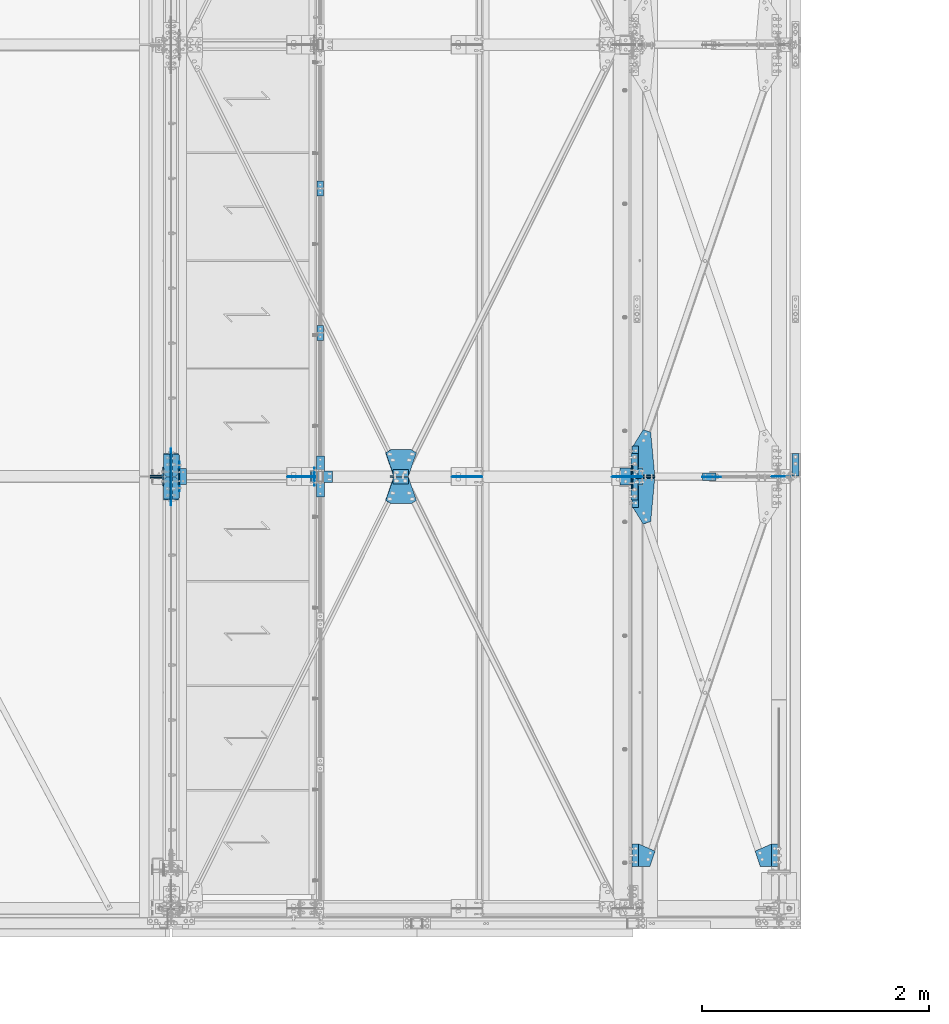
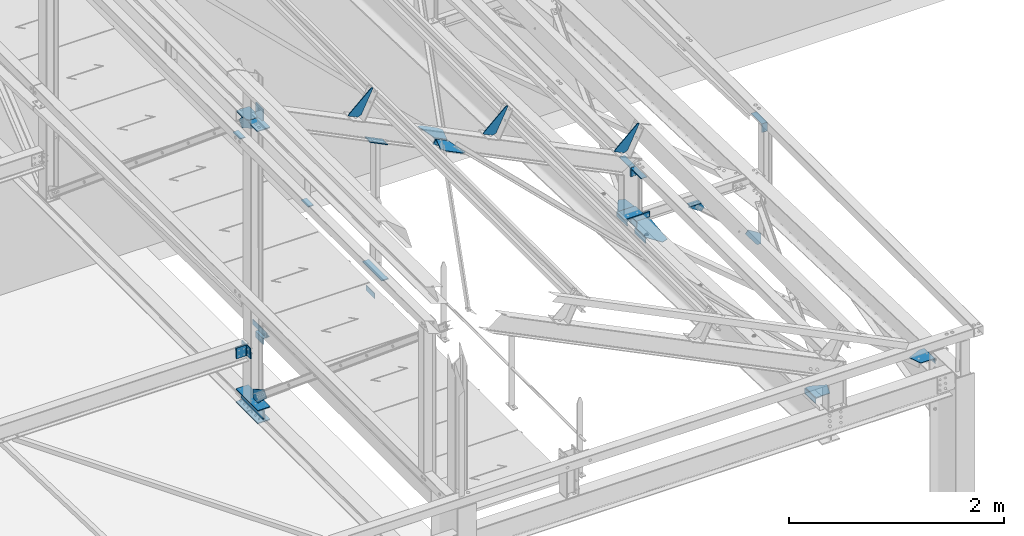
# One storey, part 107 of 362: 34 beams, 7 members, 32 elements without a shape of their own.
"""IFC2X3 building model written with IfcOpenShell, lengths in millimetres."""

from ifc_helpers import new_model, si_unit, frame, frame_2d, origin_with_axes, origin_2d_with_axis, place, context, subcontext, project, spatial, polyline, circle_curve, parameter, trimmed, segment, composite_curve, rectangle, l_section, outline, extrude, material, type_object, element, aggregate, save


model = new_model("IFC2X3")

# Units and contexts
model_context = context("Model", 3, precision=1e-05, world=origin_with_axes())
body_context = subcontext(model_context, "Body", "Model", "MODEL_VIEW")
ifc_project = project(units=[si_unit("LENGTHUNIT", "METRE", prefix="MILLI"), si_unit("AREAUNIT", "SQUARE_METRE"), si_unit("VOLUMEUNIT", "CUBIC_METRE"), si_unit("MASSUNIT", "GRAM", prefix="KILO"), si_unit("TIMEUNIT", "SECOND"), si_unit("PLANEANGLEUNIT", "RADIAN"), si_unit("SOLIDANGLEUNIT", "STERADIAN"), si_unit("THERMODYNAMICTEMPERATUREUNIT", "DEGREE_CELSIUS"), si_unit("LUMINOUSINTENSITYUNIT", "LUMEN")], contexts=[model_context])

# Site, building, storey
site_placement = place(None, origin_with_axes())
site = spatial("IfcSite", under=ifc_project, at=site_placement, Name="Undefined", CompositionType="ELEMENT")
building_placement = place(site_placement, origin_with_axes())
building = spatial("IfcBuilding", under=site, at=building_placement, Name="Undefined", CompositionType="ELEMENT")
storey_placement = place(building_placement, origin_with_axes())
storey = spatial("IfcBuildingStorey", under=building, at=storey_placement, Name="Undefined", CompositionType="ELEMENT", Elevation=0.0)

# Assembly, beams
assembly_1_placement = place(storey_placement, origin_with_axes())
assembly_1 = element("IfcElementAssembly", 1, at=assembly_1_placement, inside=storey, Name="MAIN COURANTE", AssemblyPlace="NOTDEFINED", PredefinedType="NOTDEFINED")
ifc_material = material(Name="Undefined/S235-E24")
beam_type_1 = type_object("IfcBeamType", Name="PL10*60", PredefinedType="NOTDEFINED")
beam_1_placement = place(assembly_1_placement, frame((35593.9917151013, 5130.00343196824, 8245.00000549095), z_axis=(-1.0, 0.0, 0.0), x_axis=(0.0, -1.0, 0.0)))
beam_1 = element("IfcBeam", 2, at=beam_1_placement, type_object=beam_type_1, material=ifc_material, Name="PLATINE", ObjectType="PL10*60", context=body_context, shape_type="SweptSolid", body=[
    extrude(rectangle(XDim=10.0, YDim=60.0, at=origin_2d_with_axis()), frame((130.0, 0.0, 0.0), z_axis=(-1.0, 0.0, 0.0), x_axis=(0.0, -1.0, 0.0)), (0.0, 0.0, 1.0), 130.0),
])
beam_2_placement = place(assembly_1_placement, frame((35593.9917161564, 6400.00343196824, 8245.00000462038), z_axis=(-1.0, 0.0, 0.0), x_axis=(0.0, -1.0, 0.0)))
beam_2 = element("IfcBeam", 3, at=beam_2_placement, type_object=beam_type_1, material=ifc_material, Name="PLATINE", ObjectType="PL10*60", context=body_context, shape_type="SweptSolid", body=[
    extrude(rectangle(XDim=10.0, YDim=60.0, at=origin_2d_with_axis()), frame((130.0, 0.0, 0.0), z_axis=(-1.0, 0.0, 0.0), x_axis=(0.0, -1.0, 0.0)), (0.0, 0.0, 1.0), 130.0),
])
aggregate(assembly_1, [beam_1, beam_2])

# Assembly, beam
assembly_2_placement = place(storey_placement, origin_with_axes())
assembly_2 = element("IfcElementAssembly", 4, at=assembly_2_placement, inside=storey, AssemblyPlace="NOTDEFINED", PredefinedType="NOTDEFINED")
beam_type_2 = type_object("IfcBeamType", Name="L60*6", PredefinedType="NOTDEFINED")
beam_3_placement = place(assembly_2_placement, frame((39594.9999999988, 366.801988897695, 7882.39566743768), z_axis=(-1.05403257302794e-09, -0.0314112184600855, -0.999506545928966), x_axis=(3.14103090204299e-11, 0.999506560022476, -0.0314107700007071)))
beam_3 = element("IfcBeam", 5, at=beam_3_placement, type_object=beam_type_2, material=ifc_material, Name="ATTACHE", ObjectType="L60*6", context=body_context, shape_type="SweptSolid", body=[
    extrude(l_section(Depth=60.0, Width=60.0, Thickness=6.0, FilletRadius=8.0, EdgeRadius=4.0, at=origin_2d_with_axis()), frame((200.0, 0.0, 0.0), z_axis=(-1.0, 0.0, 0.0), x_axis=(0.0, -1.0, 0.0)), (0.0, 0.0, 1.0), 200.0),
])
aggregate(assembly_2, [beam_3])

assembly_3_placement = place(storey_placement, origin_with_axes())
assembly_3 = element("IfcElementAssembly", 6, at=assembly_3_placement, inside=storey, AssemblyPlace="NOTDEFINED", PredefinedType="NOTDEFINED")
beam_4_placement = place(assembly_3_placement, frame((38365.0000000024, 566.703299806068, 7876.11347890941), z_axis=(-1.05403257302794e-09, -0.0314112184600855, -0.999506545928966), x_axis=(0.0, -0.999506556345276, 0.031410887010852)))
beam_4 = element("IfcBeam", 7, at=beam_4_placement, type_object=beam_type_2, material=ifc_material, Name="ATTACHE", ObjectType="L60*6", context=body_context, shape_type="SweptSolid", body=[
    extrude(l_section(Depth=60.0, Width=60.0, Thickness=6.0, FilletRadius=8.0, EdgeRadius=4.0, at=origin_2d_with_axis()), frame((200.0, 0.0, 0.0), z_axis=(-1.0, 0.0, 0.0), x_axis=(0.0, -1.0, 0.0)), (0.0, 0.0, 1.0), 200.0),
])
aggregate(assembly_3, [beam_4])

assembly_4_placement = place(storey_placement, origin_with_axes())
assembly_4 = element("IfcElementAssembly", 8, at=assembly_4_placement, inside=storey, AssemblyPlace="NOTDEFINED", PredefinedType="NOTDEFINED")
beam_5_placement = place(assembly_4_placement, frame((38365.0000000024, 3727.01910135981, 7776.79665503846), z_axis=(-1.05403257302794e-09, -0.0314112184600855, -0.999506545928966), x_axis=(0.0, -0.999506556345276, 0.031410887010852)))
beam_5 = element("IfcBeam", 9, at=beam_5_placement, type_object=beam_type_2, material=ifc_material, Name="ATTACHE", ObjectType="L60*6", context=body_context, shape_type="SweptSolid", body=[
    extrude(l_section(Depth=60.0, Width=60.0, Thickness=6.0, FilletRadius=8.0, EdgeRadius=4.0, at=origin_2d_with_axis()), frame((200.0, 0.0, 0.0), z_axis=(-1.0, 0.0, 0.0), x_axis=(0.0, -1.0, 0.0)), (0.0, 0.0, 1.0), 200.0),
])
aggregate(assembly_4, [beam_5])

assembly_5_placement = place(storey_placement, origin_with_axes())
assembly_5 = element("IfcElementAssembly", 10, at=assembly_5_placement, inside=storey, AssemblyPlace="NOTDEFINED", PredefinedType="NOTDEFINED")
beam_6_placement = place(assembly_5_placement, frame((38365.0000000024, 4066.85133304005, 7766.11703371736), z_axis=(-1.05403257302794e-09, -0.0314112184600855, -0.999506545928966), x_axis=(0.0, -0.999506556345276, 0.031410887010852)))
beam_6 = element("IfcBeam", 11, at=beam_6_placement, type_object=beam_type_2, material=ifc_material, Name="ATTACHE", ObjectType="L60*6", context=body_context, shape_type="SweptSolid", body=[
    extrude(l_section(Depth=60.0, Width=60.0, Thickness=6.0, FilletRadius=8.0, EdgeRadius=4.0, at=origin_2d_with_axis()), frame((200.0, 0.0, 0.0), z_axis=(-1.0, 0.0, 0.0), x_axis=(0.0, -1.0, 0.0)), (0.0, 0.0, 1.0), 200.0),
])
aggregate(assembly_5, [beam_6])

assembly_6_placement = place(storey_placement, origin_with_axes())
assembly_6 = element("IfcElementAssembly", 12, at=assembly_6_placement, inside=storey, Name="TRAVERSE SHED", AssemblyPlace="NOTDEFINED", PredefinedType="NOTDEFINED")
beam_type_3 = type_object("IfcBeamType", Name="PL10*200", PredefinedType="NOTDEFINED")
beam_7_placement = place(assembly_6_placement, frame((38330.0, 3874.80562184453, 7933.23320419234), z_axis=(-1.0, 0.0, 0.0), x_axis=(0.0, -0.999506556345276, 0.031410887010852)))
beam_7 = element("IfcBeam", 13, at=beam_7_placement, type_object=beam_type_3, material=ifc_material, Name="PLATINE", ObjectType="PL10*200", context=body_context, shape_type="SweptSolid", body=[
    extrude(rectangle(XDim=10.0, YDim=200.0, at=origin_2d_with_axis()), frame((150.0, 0.0, 0.0), z_axis=(-1.0, 0.0, 0.0), x_axis=(0.0, -1.0, 0.0)), (0.0, 0.0, 1.0), 150.0),
])

assembly_7_placement = place(storey_placement, origin_with_axes())
assembly_7 = element("IfcElementAssembly", 14, at=assembly_7_placement, inside=storey, AssemblyPlace="NOTDEFINED", PredefinedType="NOTDEFINED")
beam_type_4 = type_object("IfcBeamType", Name="L70*7", PredefinedType="NOTDEFINED")
beam_8_placement = place(assembly_7_placement, frame((34381.5001146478, 3730.0, 7915.0), z_axis=(1.0, 0.0, 0.0), x_axis=(0.0, 1.0, 0.0)))
beam_8 = element("IfcBeam", 15, at=beam_8_placement, type_object=beam_type_4, material=ifc_material, Name="ATTACHE", ObjectType="L70*7", context=body_context, shape_type="SweptSolid", body=[
    extrude(l_section(Depth=70.0, Width=70.0, Thickness=7.0, FilletRadius=9.0, EdgeRadius=4.5, at=origin_2d_with_axis()), frame((140.0, 0.0, 0.0), z_axis=(-1.0, 0.0, 0.0), x_axis=(0.0, -1.0, 0.0)), (0.0, 0.0, 1.0), 140.0),
])
aggregate(assembly_7, [beam_8])

# Assembly, member
assembly_8_placement = place(storey_placement, origin_with_axes())
assembly_8 = element("IfcElementAssembly", 16, at=assembly_8_placement, inside=storey, AssemblyPlace="NOTDEFINED", PredefinedType="NOTDEFINED")
member_type_1 = type_object("IfcMemberType", Name="L60*6", PredefinedType="NOTDEFINED")
member_1_placement = place(assembly_8_placement, frame((36221.8078763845, 3767.00045409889, 9484.14531737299), z_axis=(0.0, -1.0, 0.0), x_axis=(0.897398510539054, 0.0, -0.44122093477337)))
member_1 = element("IfcMember", 17, at=member_1_placement, type_object=member_type_1, material=ifc_material, Name="ATTACHE", ObjectType="L60*6", context=body_context, shape_type="SweptSolid", body=[
    extrude(l_section(Depth=60.0, Width=60.0, Thickness=6.0, FilletRadius=8.0, EdgeRadius=4.0, at=origin_2d_with_axis()), frame((150.0, 0.0, 0.0), z_axis=(-1.0, 0.0, 0.0), x_axis=(0.0, -1.0, 0.0)), (0.0, 0.0, 1.0), 150.0),
])
aggregate(assembly_8, [member_1])

assembly_9_placement = place(storey_placement, origin_with_axes())
assembly_9 = element("IfcElementAssembly", 18, at=assembly_9_placement, inside=storey, AssemblyPlace="NOTDEFINED", PredefinedType="NOTDEFINED")
member_2_placement = place(assembly_9_placement, frame((36356.4176224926, 3833.00025093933, 9417.96211720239), z_axis=(0.0, 1.0, 0.0), x_axis=(-0.897398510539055, -1.29999898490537e-08, 0.441220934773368)))
member_2 = element("IfcMember", 19, at=member_2_placement, type_object=member_type_1, material=ifc_material, Name="ATTACHE", ObjectType="L60*6", context=body_context, shape_type="SweptSolid", body=[
    extrude(l_section(Depth=60.0, Width=60.0, Thickness=6.0, FilletRadius=8.0, EdgeRadius=4.0, at=origin_2d_with_axis()), frame((150.0, 0.0, 0.0), z_axis=(-1.0, 0.0, 0.0), x_axis=(0.0, -1.0, 0.0)), (0.0, 0.0, 1.0), 150.0),
])
aggregate(assembly_9, [member_2])

# Assembly, beam
assembly_10_placement = place(storey_placement, origin_with_axes())
assembly_10 = element("IfcElementAssembly", 20, at=assembly_10_placement, inside=storey, Name="PANNE SHED", AssemblyPlace="NOTDEFINED", PredefinedType="NOTDEFINED")
beam_type_5 = type_object("IfcBeamType", Name="TOLE8*140", PredefinedType="NOTDEFINED")
beam_9_placement = place(assembly_10_placement, frame((38167.3881652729, 3800.0, 8712.54750741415), z_axis=(0.0, -1.0, 0.0), x_axis=(-0.441220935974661, 0.0, -0.89739850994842)))
beam_9 = element("IfcBeam", 21, at=beam_9_placement, type_object=beam_type_5, material=ifc_material, Name="RAIDISSEUR", ObjectType="TOLE8*140", context=body_context, shape_type="SweptSolid", body=[
    extrude(outline(polyline([(0.0, 0.0), (19.9999999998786, -3.63797880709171e-12), (20.0000000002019, 109.999999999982), (-9.99999999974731, 139.99998998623), (-300.0000000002, 139.999893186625), (-300.000000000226, 119.999893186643), (0.0, 0.0)])), frame((0.0, 0.0, -4.0), z_axis=(0.0, 0.0, 1.0), x_axis=(1.0, 0.0, 0.0)), (0.0, 0.0, 1.0), 8.0),
])
aggregate(assembly_10, [beam_9])

assembly_11_placement = place(storey_placement, origin_with_axes())
assembly_11 = element("IfcElementAssembly", 22, at=assembly_11_placement, inside=storey, Name="PANNE SHED", AssemblyPlace="NOTDEFINED", PredefinedType="NOTDEFINED")
beam_10_placement = place(assembly_11_placement, frame((36758.937741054, 3800.0, 9405.03563331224), z_axis=(0.0, -1.0, 0.0), x_axis=(-0.441220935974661, 0.0, -0.89739850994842)))
beam_10 = element("IfcBeam", 23, at=beam_10_placement, type_object=beam_type_5, material=ifc_material, Name="RAIDISSEUR", ObjectType="TOLE8*140", context=body_context, shape_type="SweptSolid", body=[
    extrude(outline(polyline([(0.0, 0.0), (19.9999999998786, -3.63797880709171e-12), (20.0000000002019, 109.999999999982), (-9.99999999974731, 139.99998998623), (-300.0000000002, 139.999893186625), (-300.000000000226, 119.999893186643), (0.0, 0.0)])), frame((0.0, 0.0, -4.0), z_axis=(0.0, 0.0, 1.0), x_axis=(1.0, 0.0, 0.0)), (0.0, 0.0, 1.0), 8.0),
])
aggregate(assembly_11, [beam_10])

assembly_12_placement = place(storey_placement, origin_with_axes())
assembly_12 = element("IfcElementAssembly", 24, at=assembly_12_placement, inside=storey, Name="PANNE SHED", AssemblyPlace="NOTDEFINED", PredefinedType="NOTDEFINED")
beam_11_placement = place(assembly_12_placement, frame((35310.1044072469, 3800.0, 10117.3786897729), z_axis=(0.0, -1.0, 0.0), x_axis=(-0.441220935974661, 0.0, -0.89739850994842)))
beam_11 = element("IfcBeam", 25, at=beam_11_placement, type_object=beam_type_5, material=ifc_material, Name="RAIDISSEUR", ObjectType="TOLE8*140", context=body_context, shape_type="SweptSolid", body=[
    extrude(outline(polyline([(0.0, 0.0), (19.9999999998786, -3.63797880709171e-12), (20.0000000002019, 109.999999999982), (-9.99999999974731, 139.99998998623), (-300.0000000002, 139.999893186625), (-300.000000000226, 119.999893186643), (0.0, 0.0)])), frame((0.0, 0.0, -4.0), z_axis=(0.0, 0.0, 1.0), x_axis=(1.0, 0.0, 0.0)), (0.0, 0.0, 1.0), 8.0),
])
aggregate(assembly_12, [beam_11])

assembly_13_placement = place(storey_placement, origin_with_axes())
assembly_13 = element("IfcElementAssembly", 26, at=assembly_13_placement, inside=storey, AssemblyPlace="NOTDEFINED", PredefinedType="NOTDEFINED")
beam_type_6 = type_object("IfcBeamType", Name="TOLE6*197", PredefinedType="NOTDEFINED")
beam_12_placement = place(assembly_13_placement, frame((38343.50000391, 567.739859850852, 7909.09719393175), z_axis=(1.303644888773e-06, -0.0314106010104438, -0.999506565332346), x_axis=(0.99999999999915, 4.09999990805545e-08, 1.30299999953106e-06)))
beam_12 = element("IfcBeam", 27, at=beam_12_placement, type_object=beam_type_6, material=ifc_material, Name="GOUSSET", ObjectType="TOLE6*197", context=body_context, shape_type="SweptSolid", body=[
    extrude(outline(polyline([(0.0, 0.0), (51.5000038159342, -1.75987224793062e-10), (196.831817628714, 63.0573387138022), (150.006042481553, 199.99999999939), (-0.000139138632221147, 199.999999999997), (0.0, 0.0)])), frame((0.0, 0.0, -3.0), z_axis=(0.0, 0.0, 1.0), x_axis=(1.0, 0.0, 0.0)), (0.0, 0.0, 1.0), 6.0),
])
aggregate(assembly_13, [beam_12])

assembly_14_placement = place(storey_placement, origin_with_axes())
assembly_14 = element("IfcElementAssembly", 28, at=assembly_14_placement, inside=storey, AssemblyPlace="NOTDEFINED", PredefinedType="NOTDEFINED")
beam_13_placement = place(assembly_14_placement, frame((39616.49999609, 567.739859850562, 7909.09719393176), z_axis=(1.30364488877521e-06, 0.0314106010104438, 0.999506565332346), x_axis=(-0.99999999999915, 4.0999999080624e-08, 1.30299999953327e-06)))
beam_13 = element("IfcBeam", 29, at=beam_13_placement, type_object=beam_type_6, material=ifc_material, Name="GOUSSET", ObjectType="TOLE6*197", context=body_context, shape_type="SweptSolid", body=[
    extrude(outline(polyline([(0.0, 0.0), (51.5000038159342, -1.75987224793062e-10), (196.831817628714, 63.0573387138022), (150.006042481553, 199.99999999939), (-0.000139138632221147, 199.999999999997), (0.0, 0.0)])), frame((0.0, 0.0, -3.0), z_axis=(0.0, 0.0, 1.0), x_axis=(1.0, 0.0, 0.0)), (0.0, 0.0, 1.0), 6.0),
])
aggregate(assembly_14, [beam_13])

# Assembly, member
assembly_15_placement = place(storey_placement, origin_with_axes())
assembly_15 = element("IfcElementAssembly", 30, at=assembly_15_placement, inside=storey, AssemblyPlace="NOTDEFINED", PredefinedType="NOTDEFINED")
member_type_2 = type_object("IfcMemberType", Name="L200*100*10", PredefinedType="NOTDEFINED")
member_3_placement = place(assembly_15_placement, frame((38435.0, 3851.71823980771, 7828.90545117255), z_axis=(1.0, 0.0, 0.0), x_axis=(7.58071938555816e-11, 0.0314107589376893, 0.999506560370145)))
member_3 = element("IfcMember", 31, at=member_3_placement, type_object=member_type_2, material=ifc_material, Name="ATTACHE", ObjectType="L200*100*10", context=body_context, shape_type="SweptSolid", body=[
    extrude(l_section(Depth=200.0, Width=100.0, Thickness=10.0, FilletRadius=15.0, EdgeRadius=7.5, at=origin_2d_with_axis()), frame((60.0, 0.0, 0.0), z_axis=(-1.0, 0.0, 0.0), x_axis=(0.0, -1.0, 0.0)), (0.0, 0.0, 1.0), 60.0),
])
aggregate(assembly_15, [member_3])

assembly_16_placement = place(storey_placement, origin_with_axes())
assembly_16 = element("IfcElementAssembly", 32, at=assembly_16_placement, inside=storey, AssemblyPlace="NOTDEFINED", PredefinedType="NOTDEFINED")
member_4_placement = place(assembly_16_placement, frame((38435.0000000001, 3747.65438168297, 7892.20549823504), z_axis=(1.0, 0.0, 0.0), x_axis=(-1.05403257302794e-09, -0.0314112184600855, -0.999506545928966)))
member_4 = element("IfcMember", 33, at=member_4_placement, type_object=member_type_2, material=ifc_material, Name="ATTACHE", ObjectType="L200*100*10", context=body_context, shape_type="SweptSolid", body=[
    extrude(l_section(Depth=200.0, Width=100.0, Thickness=10.0, FilletRadius=15.0, EdgeRadius=7.5, at=origin_2d_with_axis()), frame((60.0, 0.0, 0.0), z_axis=(-1.0, 0.0, 0.0), x_axis=(0.0, -1.0, 0.0)), (0.0, 0.0, 1.0), 60.0),
])
aggregate(assembly_16, [member_4])

# Assembly, beam
assembly_17_placement = place(storey_placement, origin_with_axes())
assembly_17 = element("IfcElementAssembly", 34, at=assembly_17_placement, inside=storey, AssemblyPlace="NOTDEFINED", PredefinedType="NOTDEFINED")
beam_type_7 = type_object("IfcBeamType", Name="PL10*133", PredefinedType="NOTDEFINED")
beam_14_placement = place(assembly_17_placement, frame((34280.0, 4005.00000000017, 7112.0000000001), z_axis=(1.0, 0.0, 0.0), x_axis=(0.0, -1.0, 0.0)))
beam_14 = element("IfcBeam", 35, at=beam_14_placement, type_object=beam_type_7, material=ifc_material, Name="ECLISSE", ObjectType="PL10*133", context=body_context, shape_type="SweptSolid", body=[
    extrude(rectangle(XDim=10.0, YDim=133.0, at=origin_2d_with_axis()), frame((410.0, 0.0, 0.0), z_axis=(-1.0, 0.0, 0.0), x_axis=(0.0, -1.0, 0.0)), (0.0, 0.0, 1.0), 410.0),
])
aggregate(assembly_17, [beam_14])

assembly_18_placement = place(storey_placement, origin_with_axes())
assembly_18 = element("IfcElementAssembly", 36, at=assembly_18_placement, inside=storey, Name="MONTANT", AssemblyPlace="NOTDEFINED", PredefinedType="NOTDEFINED")
beam_15_placement = place(assembly_18_placement, frame((34280.0, 4005.00000000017, 7255.0000000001), z_axis=(1.0, 0.0, 0.0), x_axis=(0.0, -1.0, 0.0)))
beam_15 = element("IfcBeam", 37, at=beam_15_placement, type_object=beam_type_7, material=ifc_material, Name="PLATINE", ObjectType="PL10*133", context=body_context, shape_type="SweptSolid", body=[
    extrude(rectangle(XDim=10.0, YDim=133.0, at=origin_2d_with_axis()), frame((410.0, 0.0, 0.0), z_axis=(-1.0, 0.0, 0.0), x_axis=(0.0, -1.0, 0.0)), (0.0, 0.0, 1.0), 410.0),
])

assembly_19_placement = place(storey_placement, origin_with_axes())
assembly_19 = element("IfcElementAssembly", 38, at=assembly_19_placement, inside=storey, AssemblyPlace="NOTDEFINED", PredefinedType="NOTDEFINED")
beam_type_8 = type_object("IfcBeamType", Name="L200*100*10", PredefinedType="NOTDEFINED")
beam_16_placement = place(assembly_19_placement, frame((39805.0, 3903.5, 8400.0), z_axis=(0.0, 1.0, 0.0), x_axis=(-1.0, 0.0, 0.0)))
beam_16 = element("IfcBeam", 39, at=beam_16_placement, type_object=beam_type_8, material=ifc_material, Name="ATTACHE", ObjectType="L200*100*10", context=body_context, shape_type="SweptSolid", body=[
    extrude(l_section(Depth=200.0, Width=100.0, Thickness=10.0, FilletRadius=15.0, EdgeRadius=7.5, at=origin_2d_with_axis()), frame((60.0, 0.0, 0.0), z_axis=(-1.0, 0.0, 0.0), x_axis=(0.0, -1.0, 0.0)), (0.0, 0.0, 1.0), 60.0),
])
aggregate(assembly_19, [beam_16])

assembly_20_placement = place(storey_placement, origin_with_axes())
assembly_20 = element("IfcElementAssembly", 40, at=assembly_20_placement, inside=storey, AssemblyPlace="NOTDEFINED", PredefinedType="NOTDEFINED")
beam_17_placement = place(assembly_20_placement, frame((38390.0, 3903.5, 8400.0), z_axis=(0.0, 1.0, 0.0), x_axis=(-1.0, 0.0, 0.0)))
beam_17 = element("IfcBeam", 41, at=beam_17_placement, type_object=beam_type_8, material=ifc_material, Name="ATTACHE", ObjectType="L200*100*10", context=body_context, shape_type="SweptSolid", body=[
    extrude(l_section(Depth=200.0, Width=100.0, Thickness=10.0, FilletRadius=15.0, EdgeRadius=7.5, at=origin_2d_with_axis()), frame((60.0, 0.0, 0.0), z_axis=(-1.0, 0.0, 0.0), x_axis=(0.0, -1.0, 0.0)), (0.0, 0.0, 1.0), 60.0),
])
aggregate(assembly_20, [beam_17])

assembly_21_placement = place(storey_placement, origin_with_axes())
assembly_21 = element("IfcElementAssembly", 42, at=assembly_21_placement, inside=storey, AssemblyPlace="NOTDEFINED", PredefinedType="NOTDEFINED")
beam_18_placement = place(assembly_21_placement, frame((38330.0, 3696.5, 8400.0), z_axis=(0.0, -1.0, 0.0), x_axis=(1.0, 0.0, 0.0)))
beam_18 = element("IfcBeam", 43, at=beam_18_placement, type_object=beam_type_8, material=ifc_material, Name="ATTACHE", ObjectType="L200*100*10", context=body_context, shape_type="SweptSolid", body=[
    extrude(l_section(Depth=200.0, Width=100.0, Thickness=10.0, FilletRadius=15.0, EdgeRadius=7.5, at=origin_2d_with_axis()), frame((60.0, 0.0, 0.0), z_axis=(-1.0, 0.0, 0.0), x_axis=(0.0, -1.0, 0.0)), (0.0, 0.0, 1.0), 60.0),
])
aggregate(assembly_21, [beam_18])

# Assembly, member
assembly_22_placement = place(storey_placement, origin_with_axes())
assembly_22 = element("IfcElementAssembly", 44, at=assembly_22_placement, inside=storey, AssemblyPlace="NOTDEFINED", PredefinedType="NOTDEFINED")
member_type_3 = type_object("IfcMemberType", Name="PL10*100", PredefinedType="NOTDEFINED")
member_5_placement = place(assembly_22_placement, frame((35511.0197434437, 3800.00000001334, 9756.72720417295), z_axis=(0.0, -1.0, 0.0), x_axis=(0.897398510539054, 0.0, -0.44122093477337)))
member_5 = element("IfcMember", 45, at=member_5_placement, type_object=member_type_3, material=ifc_material, Name="PLATINE", ObjectType="PL10*100", context=body_context, shape_type="SweptSolid", body=[
    extrude(rectangle(XDim=10.0, YDim=100.0, at=origin_2d_with_axis()), frame((210.000000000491, 0.0, 1.81898940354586e-12), z_axis=(-1.0, 0.0, 0.0), x_axis=(0.0, -1.0, 0.0)), (0.0, 0.0, 1.0), 210.0),
])

# Assembly, beams
assembly_23_placement = place(storey_placement, origin_with_axes())
assembly_23 = element("IfcElementAssembly", 46, at=assembly_23_placement, inside=storey, AssemblyPlace="NOTDEFINED", PredefinedType="NOTDEFINED")
beam_type_9 = type_object("IfcBeamType", Name="TOLE6*60", PredefinedType="NOTDEFINED")
beam_19_placement = place(assembly_23_placement, frame((35542.9917140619, 3720.0, 7985.0), z_axis=(-1.0, 0.0, 0.0), x_axis=(0.0, 0.0, 1.0)))
beam_19 = element("IfcBeam", 47, at=beam_19_placement, type_object=beam_type_9, material=ifc_material, Name="PLATINE", ObjectType="TOLE6*60", context=body_context, shape_type="SweptSolid", body=[
    extrude(outline(polyline([(0.0, 0.0), (60.0, 0.0), (60.0, 159.999984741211), (0.0, 159.999984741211), (0.0, 0.0)])), frame((0.0, 0.0, -3.0), z_axis=(0.0, 0.0, 1.0), x_axis=(1.0, 0.0, 0.0)), (0.0, 0.0, 1.0), 6.0),
])
beam_20_placement = place(assembly_23_placement, frame((34354.991943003, 3670.0, 7985.0), z_axis=(-1.0, 0.0, 0.0), x_axis=(0.0, 0.0, 1.0)))
beam_20 = element("IfcBeam", 48, at=beam_20_placement, type_object=beam_type_9, material=ifc_material, Name="PLATINE", ObjectType="TOLE6*60", context=body_context, shape_type="SweptSolid", body=[
    extrude(outline(polyline([(0.0, 0.0), (60.0, 0.0), (60.0, 260.0), (0.0, 260.0), (0.0, 0.0)])), frame((0.0, 0.0, -3.0), z_axis=(0.0, 0.0, 1.0), x_axis=(1.0, 0.0, 0.0)), (0.0, 0.0, 1.0), 6.0),
])
aggregate(assembly_23, [beam_19, beam_20])

# Beam
beam_type_10 = type_object("IfcBeamType", Name="PL10*70", PredefinedType="NOTDEFINED")
beam_21_placement = place(assembly_22_placement, frame((35593.9917140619, 3980.00010616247, 8245.00000367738), z_axis=(1.0, 0.0, 0.0), x_axis=(0.0, -1.0, 0.0)))
beam_21 = element("IfcBeam", 49, at=beam_21_placement, type_object=beam_type_10, material=ifc_material, Name="PLATINE", ObjectType="PL10*70", context=body_context, shape_type="SweptSolid", body=[
    extrude(rectangle(XDim=10.0, YDim=70.0, at=origin_2d_with_axis()), frame((360.000000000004, 0.0, 0.0), z_axis=(-1.0, 0.0, 0.0), x_axis=(0.0, -1.0, 0.0)), (0.0, 0.0, 1.0), 360.0),
])

aggregate(assembly_22, [member_5, beam_21])

beam_type_11 = type_object("IfcBeamType", Name="PL10*140", PredefinedType="NOTDEFINED")
beam_22_placement = place(assembly_6_placement, frame((34351.5, 3800.0, 10548.0682550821), z_axis=(0.0, -1.0, 0.0), x_axis=(0.0, 0.0, -1.0)))
beam_22 = element("IfcBeam", 50, at=beam_22_placement, type_object=beam_type_11, material=ifc_material, Name="PLATINE", ObjectType="PL10*140", context=body_context, shape_type="SweptSolid", body=[
    extrude(rectangle(XDim=10.0, YDim=140.0, at=origin_2d_with_axis()), frame((213.394604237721, 0.0, 0.0), z_axis=(-1.0, 0.0, 0.0), x_axis=(0.0, -1.0, 0.0)), (0.0, 0.0, 1.0), 213.39),
])

aggregate(assembly_6, [beam_7, beam_22])

# Assembly, beam
assembly_24_placement = place(storey_placement, origin_with_axes())
assembly_24 = element("IfcElementAssembly", 51, at=assembly_24_placement, inside=storey, AssemblyPlace="NOTDEFINED", PredefinedType="NOTDEFINED")
beam_type_12 = type_object("IfcBeamType", Name="TOLE6*281", PredefinedType="NOTDEFINED")
beam_23_placement = place(assembly_24_placement, frame((36370.9779523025, 3813.00015384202, 9447.57632338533), z_axis=(-0.441220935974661, 0.0, -0.89739850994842), x_axis=(-0.897398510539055, -1.29999898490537e-08, 0.441220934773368)))
beam_23 = element("IfcBeam", 52, at=beam_23_placement, type_object=beam_type_12, material=ifc_material, Name="GOUSSET", ObjectType="TOLE6*281", context=body_context, shape_type="SweptSolid", body=[
    extrude(outline(polyline([(0.0, 0.0), (149.999999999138, -4.0381564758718e-10), (225.299438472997, 196.258819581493), (172.823120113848, 225.348953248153), (-22.830436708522, 225.348953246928), (-75.3067550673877, 196.258804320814), (0.0, 0.0)])), frame((0.0, 0.0, -3.0), z_axis=(0.0, 0.0, 1.0), x_axis=(1.0, 0.0, 0.0)), (0.0, 0.0, 1.0), 6.0),
])
aggregate(assembly_24, [beam_23])

assembly_25_placement = place(storey_placement, origin_with_axes())
assembly_25 = element("IfcElementAssembly", 53, at=assembly_25_placement, inside=storey, AssemblyPlace="NOTDEFINED", PredefinedType="NOTDEFINED")
beam_24_placement = place(assembly_25_placement, frame((36370.9779526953, 3787.00055704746, 9447.57632338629), z_axis=(0.44122107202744, 0.0, 0.89739844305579), x_axis=(-0.897398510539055, -1.29999898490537e-08, 0.441220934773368)))
beam_24 = element("IfcBeam", 54, at=beam_24_placement, type_object=beam_type_12, material=ifc_material, Name="GOUSSET", ObjectType="TOLE6*281", context=body_context, shape_type="SweptSolid", body=[
    extrude(outline(polyline([(0.0, 0.0), (149.999999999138, -4.0381564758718e-10), (225.299438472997, 196.258819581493), (172.823120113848, 225.348953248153), (-22.830436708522, 225.348953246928), (-75.3067550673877, 196.258804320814), (0.0, 0.0)])), frame((0.0, 0.0, -3.0), z_axis=(0.0, 0.0, 1.0), x_axis=(1.0, 0.0, 0.0)), (0.0, 0.0, 1.0), 6.0),
])
aggregate(assembly_25, [beam_24])

# Assembly, beams
assembly_26_placement = place(storey_placement, origin_with_axes())
assembly_26 = element("IfcElementAssembly", 55, at=assembly_26_placement, inside=storey, AssemblyPlace="NOTDEFINED", PredefinedType="NOTDEFINED")
beam_type_13 = type_object("IfcBeamType", Name="PL6*120", PredefinedType="NOTDEFINED")
beam_25_placement = place(assembly_26_placement, frame((39015.0, 3830.00533210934, 7806.57650937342), z_axis=(1.0, 0.0, 0.0), x_axis=(0.0, -0.999506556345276, 0.031410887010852)))
beam_25 = element("IfcBeam", 56, at=beam_25_placement, type_object=beam_type_13, material=ifc_material, Name="PLATINE", ObjectType="PL6*120", context=body_context, shape_type="SweptSolid", body=[
    extrude(rectangle(XDim=6.0, YDim=120.0, at=origin_2d_with_axis()), frame((63.999999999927, 0.0, 0.0), z_axis=(-1.0, 0.0, 0.0), x_axis=(0.0, -1.0, 0.0)), (0.0, 0.0, 1.0), 64.0),
])
beam_type_14 = type_object("IfcBeamType", Name="TOLE6*113", PredefinedType="NOTDEFINED")
beam_26_placement = place(assembly_26_placement, frame((38955.0, 3798.12, 7804.42370507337), z_axis=(0.0, -1.0, 0.0), x_axis=(0.0, 0.0, -1.0)))
beam_26 = element("IfcBeam", 57, at=beam_26_placement, type_object=beam_type_14, material=ifc_material, Name="GOUSSET", ObjectType="TOLE6*113", context=body_context, shape_type="SweptSolid", body=[
    extrude(outline(polyline([(0.0, 0.0), (24.9957141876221, 0.0), (112.824180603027, 134.777084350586), (75.6574859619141, 168.223098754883), (-2.37123549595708e-06, 120.0), (0.0, 0.0)])), frame((0.0, 0.0, -3.0), z_axis=(0.0, 0.0, 1.0), x_axis=(1.0, 0.0, 0.0)), (0.0, 0.0, 1.0), 6.0),
])
aggregate(assembly_26, [beam_26, beam_25])

# Assembly, beam
assembly_27_placement = place(storey_placement, origin_with_axes())
assembly_27 = element("IfcElementAssembly", 58, at=assembly_27_placement, inside=storey, AssemblyPlace="NOTDEFINED", PredefinedType="NOTDEFINED")
beam_type_15 = type_object("IfcBeamType", Name="TOLE6*167", PredefinedType="NOTDEFINED")
beam_27_placement = place(assembly_27_placement, frame((39562.2651636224, 3800.0, 7266.41114294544), z_axis=(0.0, -1.0, 0.0), x_axis=(0.605878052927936, 0.0, -0.795557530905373)))
beam_27 = element("IfcBeam", 59, at=beam_27_placement, type_object=beam_type_15, material=ifc_material, Name="GOUSSET", ObjectType="TOLE6*167", context=body_context, shape_type="SweptSolid", body=[
    extrude(outline(polyline([(0.0, 0.0), (209.175491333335, -5.74800651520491e-10), (233.410614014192, 31.8223018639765), (137.943710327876, 104.52766418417), (-9.30403423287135, 49.1267242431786), (0.0, 0.0)])), frame((0.0, 0.0, -3.0), z_axis=(0.0, 0.0, 1.0), x_axis=(1.0, 0.0, 0.0)), (0.0, 0.0, 1.0), 6.0),
])
aggregate(assembly_27, [beam_27])

assembly_28_placement = place(storey_placement, origin_with_axes())
assembly_28 = element("IfcElementAssembly", 60, at=assembly_28_placement, inside=storey, AssemblyPlace="NOTDEFINED", PredefinedType="NOTDEFINED")
beam_type_16 = type_object("IfcBeamType", Name="TOLE6*190", PredefinedType="NOTDEFINED")
beam_28_placement = place(assembly_28_placement, frame((38435.27153336, 4213.86040001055, 7794.51337791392), z_axis=(7.58071938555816e-11, 0.0314107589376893, 0.999506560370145), x_axis=(-0.525777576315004, -0.850202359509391, 0.0267186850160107)))
beam_28 = element("IfcBeam", 61, at=beam_28_placement, type_object=beam_type_16, material=ifc_material, Name="GOUSSET", ObjectType="TOLE6*190", context=body_context, shape_type="SweptSolid", body=[
    extrude(outline(polyline([(0.0, 0.0), (171.691482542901, -6.18456397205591e-10), (631.027404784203, 283.919891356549), (707.794799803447, 437.494689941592), (653.704956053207, 481.927673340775), (328.681610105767, 320.40301513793), (274.241790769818, 286.753265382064), (-15.5598268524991, 68.2487487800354), (0.0, 0.0)])), frame((0.0, 0.0, -3.0), z_axis=(0.0, 0.0, 1.0), x_axis=(1.0, 0.0, 0.0)), (0.0, 0.0, 1.0), 6.0),
])
aggregate(assembly_28, [beam_28])

# Assembly, member
assembly_29_placement = place(storey_placement, origin_with_axes())
assembly_29 = element("IfcElementAssembly", 62, at=assembly_29_placement, inside=storey, AssemblyPlace="NOTDEFINED", PredefinedType="NOTDEFINED")
member_type_4 = type_object("IfcMemberType", Name="L120*80*10", PredefinedType="NOTDEFINED")
member_6_placement = place(assembly_29_placement, frame((34153.5000000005, 3844.86993296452, 7889.15200695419), z_axis=(-1.0, 0.0, 0.0), x_axis=(-1.05403257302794e-09, -0.0314112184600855, -0.999506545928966)))
member_6 = element("IfcMember", 63, at=member_6_placement, type_object=member_type_4, material=ifc_material, Name="ATTACHE", ObjectType="L120*80*10", context=body_context, shape_type="SweptSolid", body=[
    extrude(l_section(Depth=120.0, Width=80.0, Thickness=10.0, FilletRadius=11.0, EdgeRadius=5.5, at=origin_2d_with_axis()), frame((120.0, 0.0, 0.0), z_axis=(-1.0, 0.0, 0.0), x_axis=(0.0, -1.0, 0.0)), (0.0, 0.0, 1.0), 120.0),
])
aggregate(assembly_29, [member_6])

assembly_30_placement = place(storey_placement, origin_with_axes())
assembly_30 = element("IfcElementAssembly", 64, at=assembly_30_placement, inside=storey, AssemblyPlace="NOTDEFINED", PredefinedType="NOTDEFINED")
member_7_placement = place(assembly_30_placement, frame((34153.5000000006, 3755.14216198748, 7771.91261327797), z_axis=(-1.0, 0.0, 0.0), x_axis=(7.58071938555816e-11, 0.0314107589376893, 0.999506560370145)))
member_7 = element("IfcMember", 65, at=member_7_placement, type_object=member_type_4, material=ifc_material, Name="ATTACHE", ObjectType="L120*80*10", context=body_context, shape_type="SweptSolid", body=[
    extrude(l_section(Depth=120.0, Width=80.0, Thickness=10.0, FilletRadius=11.0, EdgeRadius=5.5, at=origin_2d_with_axis()), frame((120.0, 0.0, 0.0), z_axis=(-1.0, 0.0, 0.0), x_axis=(0.0, -1.0, 0.0)), (0.0, 0.0, 1.0), 120.0),
])
aggregate(assembly_30, [member_7])

# Beam
beam_type_17 = type_object("IfcBeamType", Name="TOLE8*213", PredefinedType="NOTDEFINED")
beam_29_placement = place(assembly_18_placement, frame((34280.0, 3802.75, 10413.0), z_axis=(-1.0, 0.0, 0.0), x_axis=(0.0, 1.0, 0.0)))
beam_29 = element("IfcBeam", 66, at=beam_29_placement, type_object=beam_type_17, material=ifc_material, Name="GOUSSET", ObjectType="TOLE8*213", context=body_context, shape_type="SweptSolid", body=[
    extrude(outline(polyline([(1.47401806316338e-08, 20.0000000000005), (19.9999999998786, -3.63797880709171e-12), (117.25, 0.0), (253.165084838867, 151.578048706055), (201.88996887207, 212.985397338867), (0.0, 100.0), (1.47401806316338e-08, 20.0000000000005)])), frame((0.0, 0.0, -4.0), z_axis=(0.0, 0.0, 1.0), x_axis=(1.0, 0.0, 0.0)), (0.0, 0.0, 1.0), 8.0),
])

beam_type_18 = type_object("IfcBeamType", Name="TOLE8*135", PredefinedType="NOTDEFINED")
beam_30_placement = place(assembly_18_placement, frame((34280.0, 3797.25, 7260.0), z_axis=(-1.0, 0.0, 0.0), x_axis=(0.0, -1.0, 0.0)))
beam_30 = element("IfcBeam", 67, at=beam_30_placement, type_object=beam_type_18, material=ifc_material, Name="GOUSSET", ObjectType="TOLE8*135", context=body_context, shape_type="SweptSolid", body=[
    extrude(outline(polyline([(1.47401806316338e-08, 20.0000000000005), (19.9999999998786, -3.63797880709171e-12), (97.25, 0.0), (253.164978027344, 151.578247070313), (201.889801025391, 212.985565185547), (0.0, 100.0), (1.47401806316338e-08, 20.0000000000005)])), frame((0.0, 0.0, -4.0), z_axis=(0.0, 0.0, 1.0), x_axis=(1.0, 0.0, 0.0)), (0.0, 0.0, 1.0), 8.0),
])

beam_type_19 = type_object("IfcBeamType", Name="TOLE10*192", PredefinedType="NOTDEFINED")
beam_31_placement = place(assembly_18_placement, frame((34213.5, 3604.99692211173, 10418.0), z_axis=(0.0, 0.0, -1.0), x_axis=(0.0, 1.0, 0.0)))
beam_31 = element("IfcBeam", 68, at=beam_31_placement, type_object=beam_type_19, material=ifc_material, Name="PLAT", ObjectType="TOLE10*192", context=body_context, shape_type="SweptSolid", body=[
    extrude(outline(composite_curve([segment(trimmed(circle_curve(frame_2d((10.0, 10.0), x_axis=(-1.0, 0.0)), 10.0), [parameter(0.0)], [parameter(1.5707963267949)], True, "PARAMETER"), True, "CONTINUOUS"), segment(polyline([(9.99999999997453, 6.91215973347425e-11), (124.5, 0.0), (124.5, 9.0), (172.25, 9.0), (192.25, 29.0), (192.25, 104.0), (172.25, 124.0), (124.0, 124.0), (124.0, 140.0), (10.0, 140.0)]), True, "CONTINUOUS"), segment(trimmed(circle_curve(frame_2d((10.0, 130.0), x_axis=(0.0, 1.0)), 10.0), [parameter(0.0)], [parameter(1.5707963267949)], True, "PARAMETER"), True, "CONTINUOUS"), segment(polyline([(0.0, 130.0), (-1.81898940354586e-10, 10.0000000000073)]), True, "CONTINUOUS")], self_intersect=True)), frame((0.0, 0.0, -5.0), z_axis=(0.0, 0.0, 1.0), x_axis=(1.0, 0.0, 0.0)), (0.0, 0.0, 1.0), 10.0),
])

beam_32_placement = place(assembly_18_placement, frame((34213.5, 3995.0, 10418.0), z_axis=(0.0, 0.0, 1.0), x_axis=(0.0, -1.0, 0.0)))
beam_32 = element("IfcBeam", 69, at=beam_32_placement, type_object=beam_type_19, material=ifc_material, Name="PLAT", ObjectType="TOLE10*192", context=body_context, shape_type="SweptSolid", body=[
    extrude(outline(composite_curve([segment(trimmed(circle_curve(frame_2d((10.0, 10.0), x_axis=(-1.0, 0.0)), 10.0), [parameter(0.0)], [parameter(1.5707963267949)], True, "PARAMETER"), True, "CONTINUOUS"), segment(polyline([(9.99999999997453, 6.91215973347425e-11), (124.5, 0.0), (124.5, 9.0), (172.25, 9.0), (192.25, 29.0), (192.25, 104.0), (172.25, 124.0), (124.0, 124.0), (124.0, 140.0), (10.0, 140.0)]), True, "CONTINUOUS"), segment(trimmed(circle_curve(frame_2d((10.0, 130.0), x_axis=(0.0, 1.0)), 10.0), [parameter(0.0)], [parameter(1.5707963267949)], True, "PARAMETER"), True, "CONTINUOUS"), segment(polyline([(0.0, 130.0), (-1.81898940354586e-10, 10.0000000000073)]), True, "CONTINUOUS")], self_intersect=True)), frame((0.0, 0.0, -5.0), z_axis=(0.0, 0.0, 1.0), x_axis=(1.0, 0.0, 0.0)), (0.0, 0.0, 1.0), 10.0),
])

aggregate(assembly_18, [beam_29, beam_30, beam_31, beam_32, beam_15])

# Assembly, beam
assembly_31_placement = place(storey_placement, origin_with_axes())
assembly_31 = element("IfcElementAssembly", 70, at=assembly_31_placement, inside=storey, AssemblyPlace="NOTDEFINED", PredefinedType="NOTDEFINED")
beam_type_20 = type_object("IfcBeamType", Name="PL10*90", PredefinedType="NOTDEFINED")
beam_33_placement = place(assembly_31_placement, frame((34288.0, 4005.00000000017, 7183.5000000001), z_axis=(0.0, 0.0, -1.0), x_axis=(0.0, -1.0, 0.0)))
beam_33 = element("IfcBeam", 71, at=beam_33_placement, type_object=beam_type_20, material=ifc_material, Name="ECLISSE", ObjectType="PL10*90", context=body_context, shape_type="SweptSolid", body=[
    extrude(rectangle(XDim=10.0, YDim=90.0, at=origin_2d_with_axis()), frame((410.0, 0.0, 0.0), z_axis=(-1.0, 0.0, 0.0), x_axis=(0.0, -1.0, 0.0)), (0.0, 0.0, 1.0), 410.0),
])
aggregate(assembly_31, [beam_33])

assembly_32_placement = place(storey_placement, origin_with_axes())
assembly_32 = element("IfcElementAssembly", 72, at=assembly_32_placement, inside=storey, AssemblyPlace="NOTDEFINED", PredefinedType="NOTDEFINED")
beam_34_placement = place(assembly_32_placement, frame((34272.0, 4005.00000000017, 7183.5000000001), z_axis=(0.0, 0.0, -1.0), x_axis=(0.0, -1.0, 0.0)))
beam_34 = element("IfcBeam", 73, at=beam_34_placement, type_object=beam_type_20, material=ifc_material, Name="ECLISSE", ObjectType="PL10*90", context=body_context, shape_type="SweptSolid", body=[
    extrude(rectangle(XDim=10.0, YDim=90.0, at=origin_2d_with_axis()), frame((410.0, 0.0, 0.0), z_axis=(-1.0, 0.0, 0.0), x_axis=(0.0, -1.0, 0.0)), (0.0, 0.0, 1.0), 410.0),
])
aggregate(assembly_32, [beam_34])

save(model, "model.ifc")
